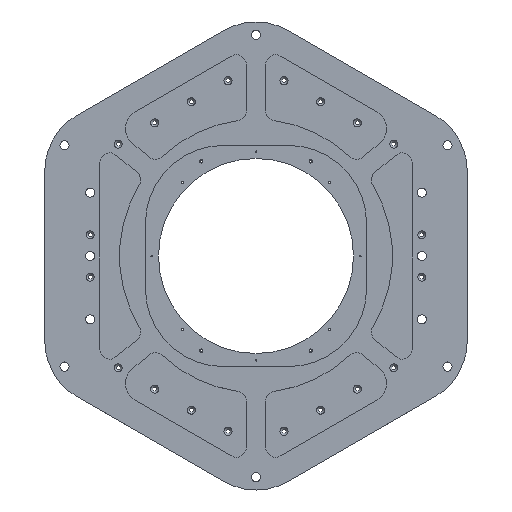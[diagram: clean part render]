
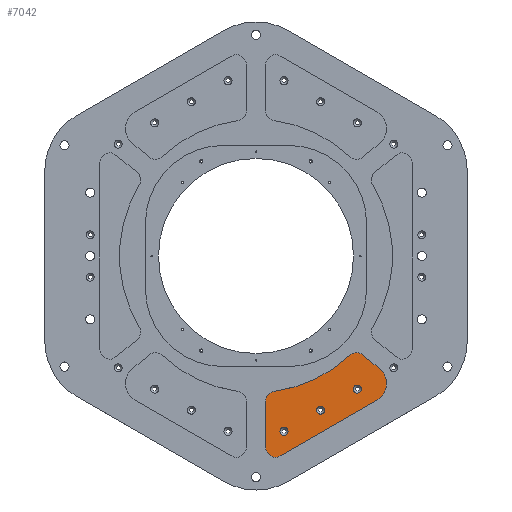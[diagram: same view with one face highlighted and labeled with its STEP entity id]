
A CAD part, top view. The second image highlights one B-rep face of the part: STEP entity #7042.
In plain terms, the highlighted planar face has unit normal (0, 0, 1).
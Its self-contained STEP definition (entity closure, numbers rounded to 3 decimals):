
#2258=CARTESIAN_POINT('',(154.417,-163.647,5.));
#2259=DIRECTION('',(0.,0.,1.));
#2260=DIRECTION('',(0.629,0.777,0.));
#2261=AXIS2_PLACEMENT_3D('',#2258,#2259,#2260);
#2266=DIRECTION('',(-0.777,0.629,0.));
#2267=VECTOR('',#2266,32.877);
#2268=CARTESIAN_POINT('',(189.407,-172.68,5.));
#2269=LINE('9882',#2268,#2267);
#2273=CARTESIAN_POINT('',(170.527,-195.995,5.));
#2274=DIRECTION('',(0.,0.,1.));
#2275=DIRECTION('',(0.5,-0.866,0.));
#2276=AXIS2_PLACEMENT_3D('',#2273,#2274,#2275);
#2281=DIRECTION('',(0.866,0.5,0.));
#2282=VECTOR('',#2281,170.927);
#2283=CARTESIAN_POINT('',(37.5,-307.439,5.));
#2284=LINE('9864',#2283,#2282);
#2288=CARTESIAN_POINT('',(30.,-294.449,5.));
#2289=DIRECTION('',(0.,0.,1.));
#2290=DIRECTION('',(-1.,0.,0.));
#2291=AXIS2_PLACEMENT_3D('',#2288,#2289,#2290);
#2296=DIRECTION('',(0.,-1.,0.));
#2297=VECTOR('',#2296,71.458);
#2298=CARTESIAN_POINT('',(15.,-222.991,5.));
#2299=LINE('9866',#2298,#2297);
#2303=CARTESIAN_POINT('',(30.,-222.991,5.));
#2304=DIRECTION('',(0.,0.,1.));
#2305=DIRECTION('',(-0.133,0.991,0.));
#2306=AXIS2_PLACEMENT_3D('',#2303,#2304,#2305);
#2311=CARTESIAN_POINT('',(0.,0.,5.));
#2312=DIRECTION('',(0.,0.,-1.));
#2313=DIRECTION('',(0.686,-0.727,0.));
#2314=AXIS2_PLACEMENT_3D('',#2311,#2312,#2313);
#2672=CARTESIAN_POINT('',(43.063,-269.586,5.));
#2673=DIRECTION('',(0.,0.,1.));
#2674=DIRECTION('',(-0.5,-0.866,0.));
#2675=AXIS2_PLACEMENT_3D('',#2672,#2673,#2674);
#2680=CARTESIAN_POINT('',(43.063,-269.586,5.));
#2681=DIRECTION('',(0.,0.,1.));
#2682=DIRECTION('',(0.5,0.866,0.));
#2683=AXIS2_PLACEMENT_3D('',#2680,#2681,#2682);
#2688=CARTESIAN_POINT('',(99.354,-237.086,5.));
#2689=DIRECTION('',(0.,0.,1.));
#2690=DIRECTION('',(-0.5,-0.866,0.));
#2691=AXIS2_PLACEMENT_3D('',#2688,#2689,#2690);
#2696=CARTESIAN_POINT('',(99.354,-237.086,5.));
#2697=DIRECTION('',(0.,0.,1.));
#2698=DIRECTION('',(0.5,0.866,0.));
#2699=AXIS2_PLACEMENT_3D('',#2696,#2697,#2698);
#2704=CARTESIAN_POINT('',(155.646,-204.586,5.));
#2705=DIRECTION('',(0.,0.,1.));
#2706=DIRECTION('',(-0.5,-0.866,0.));
#2707=AXIS2_PLACEMENT_3D('',#2704,#2705,#2706);
#2712=CARTESIAN_POINT('',(155.646,-204.586,5.));
#2713=DIRECTION('',(0.,0.,1.));
#2714=DIRECTION('',(0.5,0.866,0.));
#2715=AXIS2_PLACEMENT_3D('',#2712,#2713,#2714);
#4688=CARTESIAN_POINT('',(39.963,-274.956,5.));
#4689=VERTEX_POINT('',#4688);
#4692=CARTESIAN_POINT('',(46.163,-264.217,5.));
#4693=VERTEX_POINT('',#4692);
#4700=CARTESIAN_POINT('',(96.254,-242.456,5.));
#4701=VERTEX_POINT('',#4700);
#4704=CARTESIAN_POINT('',(102.454,-231.717,5.));
#4705=VERTEX_POINT('',#4704);
#4712=CARTESIAN_POINT('',(152.546,-209.956,5.));
#4713=VERTEX_POINT('',#4712);
#4716=CARTESIAN_POINT('',(158.746,-199.217,5.));
#4717=VERTEX_POINT('',#4716);
#4878=CARTESIAN_POINT('',(163.857,-151.99,5.));
#4879=CARTESIAN_POINT('',(144.123,-152.737,5.));
#4880=VERTEX_POINT('',#4878);
#4881=VERTEX_POINT('',#4879);
#5038=CARTESIAN_POINT('',(15.,-294.449,5.));
#5039=CARTESIAN_POINT('',(37.5,-307.439,5.));
#5040=VERTEX_POINT('',#5038);
#5041=VERTEX_POINT('',#5039);
#5046=CARTESIAN_POINT('',(28.,-208.125,5.));
#5047=CARTESIAN_POINT('',(15.,-222.991,5.));
#5048=VERTEX_POINT('',#5046);
#5049=VERTEX_POINT('',#5047);
#5062=CARTESIAN_POINT('',(185.527,-221.975,5.));
#5063=CARTESIAN_POINT('',(189.407,-172.68,5.));
#5064=VERTEX_POINT('',#5062);
#5065=VERTEX_POINT('',#5063);
#7003=CARTESIAN_POINT('',(0.,0.,5.));
#7004=DIRECTION('',(0.,0.,1.));
#7005=DIRECTION('',(0.,-1.,0.));
#7006=AXIS2_PLACEMENT_3D('',#7003,#7004,#7005);
#7007=PLANE('7163',#7006);
#7009=ORIENTED_EDGE('9736',*,*,#7008,.F.);
#7011=ORIENTED_EDGE('9882',*,*,#7010,.F.);
#7013=ORIENTED_EDGE('9851',*,*,#7012,.F.);
#7014=ORIENTED_EDGE('9864',*,*,#6981,.F.);
#7015=ORIENTED_EDGE('9836',*,*,#6994,.F.);
#7017=ORIENTED_EDGE('9866',*,*,#7016,.F.);
#7019=ORIENTED_EDGE('9841',*,*,#7018,.F.);
#7021=ORIENTED_EDGE('9865',*,*,#7020,.F.);
#7022=EDGE_LOOP('7163',(#7009,#7011,#7013,#7014,#7015,#7017,#7019,#7021));
#7023=FACE_OUTER_BOUND('7163',#7022,.F.);
#7025=ORIENTED_EDGE('10066',*,*,#7024,.T.);
#7027=ORIENTED_EDGE('10067',*,*,#7026,.T.);
#7028=EDGE_LOOP('7163',(#7025,#7027));
#7029=FACE_BOUND('7163',#7028,.F.);
#7031=ORIENTED_EDGE('10068',*,*,#7030,.T.);
#7033=ORIENTED_EDGE('10069',*,*,#7032,.T.);
#7034=EDGE_LOOP('7163',(#7031,#7033));
#7035=FACE_BOUND('7163',#7034,.F.);
#7037=ORIENTED_EDGE('10070',*,*,#7036,.T.);
#7039=ORIENTED_EDGE('10071',*,*,#7038,.T.);
#7040=EDGE_LOOP('7163',(#7037,#7039));
#7041=FACE_BOUND('7163',#7040,.F.);
#2262=CIRCLE('9736',#2261,15.);
#2277=CIRCLE('9851',#2276,30.);
#2292=CIRCLE('9836',#2291,15.);
#2307=CIRCLE('9841',#2306,15.);
#2315=CIRCLE('9865',#2314,210.);
#2676=CIRCLE('10066',#2675,6.2);
#2684=CIRCLE('10067',#2683,6.2);
#2692=CIRCLE('10068',#2691,6.2);
#2700=CIRCLE('10069',#2699,6.2);
#2708=CIRCLE('10070',#2707,6.2);
#2716=CIRCLE('10071',#2715,6.2);
#6981=EDGE_CURVE('9864',#5041,#5064,#2284,.T.);
#6994=EDGE_CURVE('9836',#5040,#5041,#2292,.T.);
#7008=EDGE_CURVE('9736',#4880,#4881,#2262,.T.);
#7010=EDGE_CURVE('9882',#5065,#4880,#2269,.T.);
#7012=EDGE_CURVE('9851',#5064,#5065,#2277,.T.);
#7016=EDGE_CURVE('9866',#5049,#5040,#2299,.T.);
#7018=EDGE_CURVE('9841',#5048,#5049,#2307,.T.);
#7020=EDGE_CURVE('9865',#4881,#5048,#2315,.T.);
#7024=EDGE_CURVE('10066',#4689,#4693,#2676,.T.);
#7026=EDGE_CURVE('10067',#4693,#4689,#2684,.T.);
#7030=EDGE_CURVE('10068',#4701,#4705,#2692,.T.);
#7032=EDGE_CURVE('10069',#4705,#4701,#2700,.T.);
#7036=EDGE_CURVE('10070',#4713,#4717,#2708,.T.);
#7038=EDGE_CURVE('10071',#4717,#4713,#2716,.T.);
#7042=ADVANCED_FACE('7163',(#7023,#7029,#7035,#7041),#7007,.T.);
